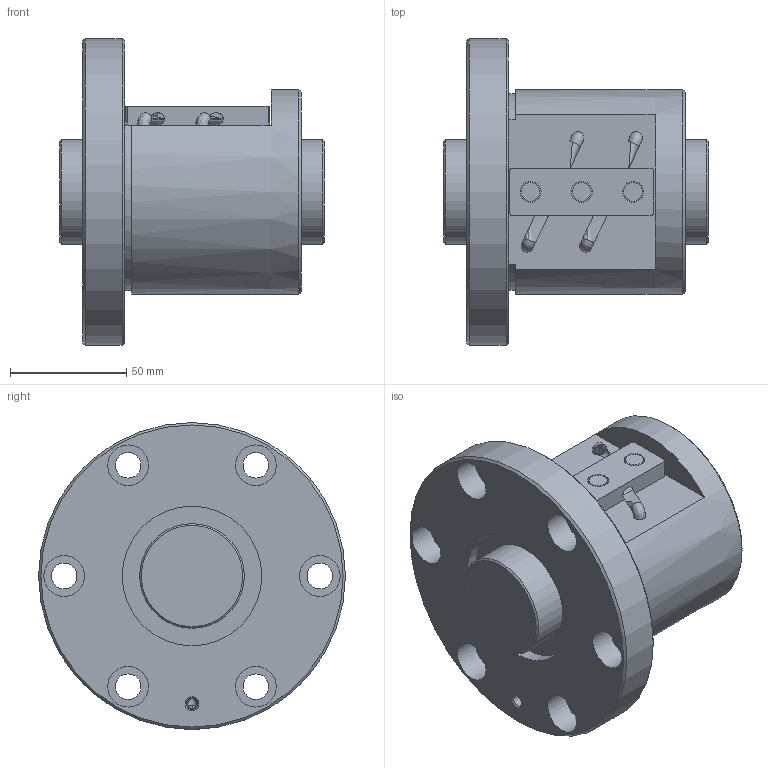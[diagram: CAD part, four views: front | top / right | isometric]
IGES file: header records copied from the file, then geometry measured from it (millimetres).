
Start section: Data from Parasolid IGES Translator 26.0.171, Copyright(c) 2006 Siemens PLM Software. All Rights Reserved.
Global section: file name: BNF4510V-3RRG1+114LC0_000_rev.igs; native system: By Siemens PLM Incorporated; preprocessor: XPlus GENERIC/IGES 26.0.171; author: Noname; organization: Noname; date: 20240806.085441; units: millimetre
Bounding box: 114 x 132 x 132 mm (x, y, z)
Surface area: 93830 mm2 (no closed solid volume)
Topology: 0 solids, 0 shells, 79 faces, 346 edges, 302 vertices
Faces by surface type: revolution 50, extrusion 29
